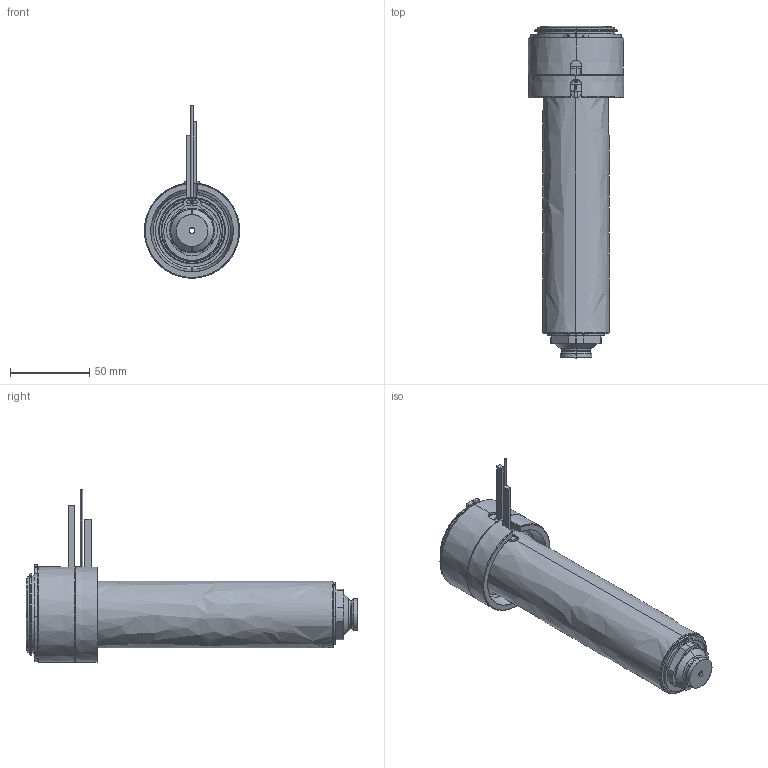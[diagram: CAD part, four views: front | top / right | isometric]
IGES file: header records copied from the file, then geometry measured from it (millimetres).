
Start section: SolidWorks IGES file using analytic representation for surfaces
Global section: file name: C:\Documents and Settings\ws-20\Desktop\TEM\UGER6607-M-A-0 [Øb-3.3 P-0 ØC-17].IGS; native system: SolidWorks 2012; preprocessor: SolidWorks 2012; author: ws-20; date: 120417.135339; units: millimetre
Bounding box: 60 x 209.25 x 108.65 mm (x, y, z)
Surface area: 109827.5 mm2 (no closed solid volume)
Topology: 0 solids, 0 shells, 166 faces, 3062 edges, 3062 vertices
Faces by surface type: revolution 100, bspline 66
